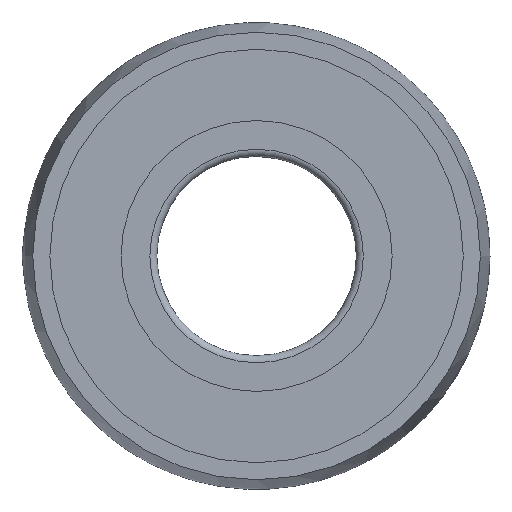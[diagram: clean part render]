
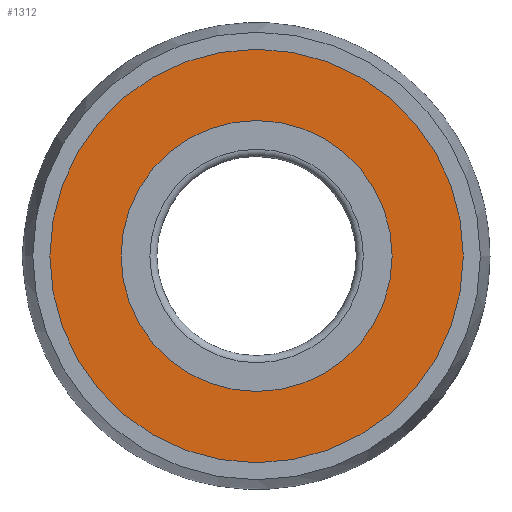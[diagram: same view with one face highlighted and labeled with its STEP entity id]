
A CAD part, left-side view. The second image highlights one B-rep face of the part: STEP entity #1312.
In plain terms, the highlighted planar face has unit normal (-1, 0, 0) as drawn and (1, 0, 0) by its records, which use the part's own axes.
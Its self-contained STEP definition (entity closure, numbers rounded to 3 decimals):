
#126=PLANE('',#1594);
#136=FACE_BOUND('',#387,.T.);
#249=CIRCLE('',#1595,17.624);
#250=CIRCLE('',#1596,11.551);
#318=FACE_OUTER_BOUND('',#386,.T.);
#386=EDGE_LOOP('',(#1174));
#387=EDGE_LOOP('',(#1175));
#624=VERTEX_POINT('',#3241);
#625=VERTEX_POINT('',#3243);
#811=EDGE_CURVE('',#624,#624,#249,.T.);
#812=EDGE_CURVE('',#625,#625,#250,.T.);
#1174=ORIENTED_EDGE('',*,*,#811,.T.);
#1175=ORIENTED_EDGE('',*,*,#812,.F.);
#1312=ADVANCED_FACE('',(#318,#136),#126,.T.);
#1594=AXIS2_PLACEMENT_3D('',#3240,#1965,#1966);
#1595=AXIS2_PLACEMENT_3D('',#3242,#1967,#1968);
#1596=AXIS2_PLACEMENT_3D('',#3244,#1969,#1970);
#1965=DIRECTION('center_axis',(1.,0.,0.));
#1966=DIRECTION('ref_axis',(0.,0.,-1.));
#1967=DIRECTION('center_axis',(1.,0.,0.));
#1968=DIRECTION('ref_axis',(0.,0.,-1.));
#1969=DIRECTION('center_axis',(1.,0.,0.));
#1970=DIRECTION('ref_axis',(0.,0.,-1.));
#3240=CARTESIAN_POINT('Origin',(6.,11.551,0.));
#3241=CARTESIAN_POINT('',(6.,-17.624,0.));
#3242=CARTESIAN_POINT('Origin',(6.,0.,
0.));
#3243=CARTESIAN_POINT('',(6.,-11.551,0.));
#3244=CARTESIAN_POINT('Origin',(6.,0.,0.));
